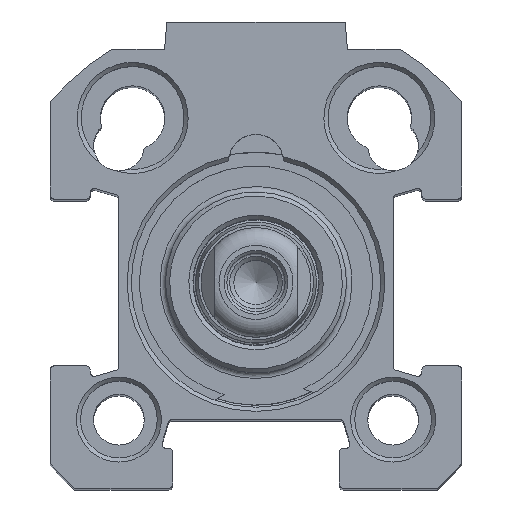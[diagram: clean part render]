
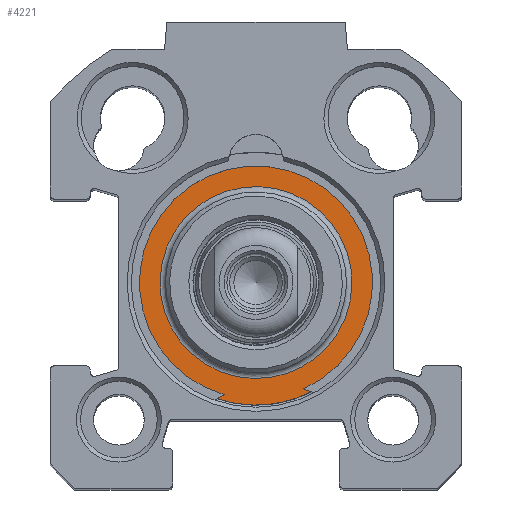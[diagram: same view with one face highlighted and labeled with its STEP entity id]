
A CAD part, top view. The second image highlights one B-rep face of the part: STEP entity #4221.
In plain terms, the highlighted planar face has unit normal (0, 0, 1).
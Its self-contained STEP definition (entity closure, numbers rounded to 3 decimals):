
#186=PLANE('',#4623);
#1228=ORIENTED_EDGE('',*,*,#1701,.F.);
#1229=ORIENTED_EDGE('',*,*,#1703,.T.);
#1701=EDGE_CURVE('',#2013,#2013,#2235,.T.);
#1703=EDGE_CURVE('',#2015,#2015,#2237,.T.);
#2013=VERTEX_POINT('',#6701);
#2015=VERTEX_POINT('',#6706);
#2235=CIRCLE('',#4621,7.);
#2237=CIRCLE('',#4624,8.95);
#2507=EDGE_LOOP('',(#1228));
#2508=EDGE_LOOP('',(#1229));
#2834=FACE_BOUND('',#2507,.T.);
#2835=FACE_BOUND('',#2508,.T.);
#4221=ADVANCED_FACE('',(#2834,#2835),#186,.T.);
#4621=AXIS2_PLACEMENT_3D('',#6700,#5536,#5537);
#4623=AXIS2_PLACEMENT_3D('',#6704,#5540,#5541);
#4624=AXIS2_PLACEMENT_3D('',#6705,#5542,#5543);
#5536=DIRECTION('',(0.,0.,1.));
#5537=DIRECTION('',(0.,-1.,0.));
#5540=DIRECTION('',(0.,0.,1.));
#5541=DIRECTION('',(1.,0.,0.));
#5542=DIRECTION('',(0.,0.,1.));
#5543=DIRECTION('',(0.,-1.,0.));
#6700=CARTESIAN_POINT('',(0.,0.,49.3));
#6701=CARTESIAN_POINT('',(0.,-7.,49.3));
#6704=CARTESIAN_POINT('',(0.,-7.975,49.3));
#6705=CARTESIAN_POINT('',(0.,0.,49.3));
#6706=CARTESIAN_POINT('',(0.,-8.95,49.3));
